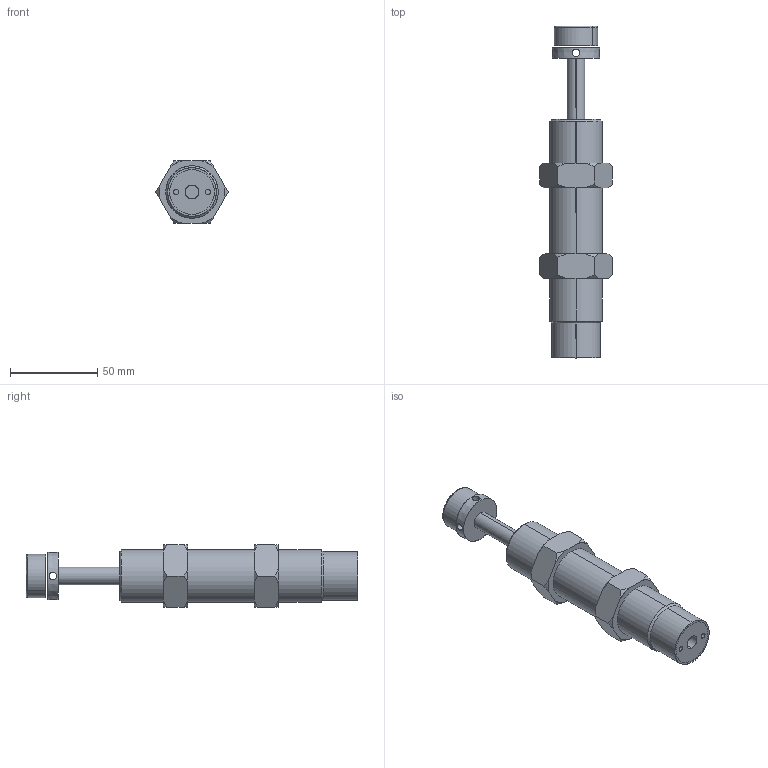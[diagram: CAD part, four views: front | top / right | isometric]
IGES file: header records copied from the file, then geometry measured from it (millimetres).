
Start section: SolidWorks IGES file using analytic representation for surfaces
Bounding box: 41.57 x 190 x 36 mm (x, y, z)
Surface area: 25222.8 mm2 (no closed solid volume)
Topology: 0 solids, 0 shells, 103 faces, 1926 edges, 1926 vertices
Faces by surface type: revolution 72, bspline 31
